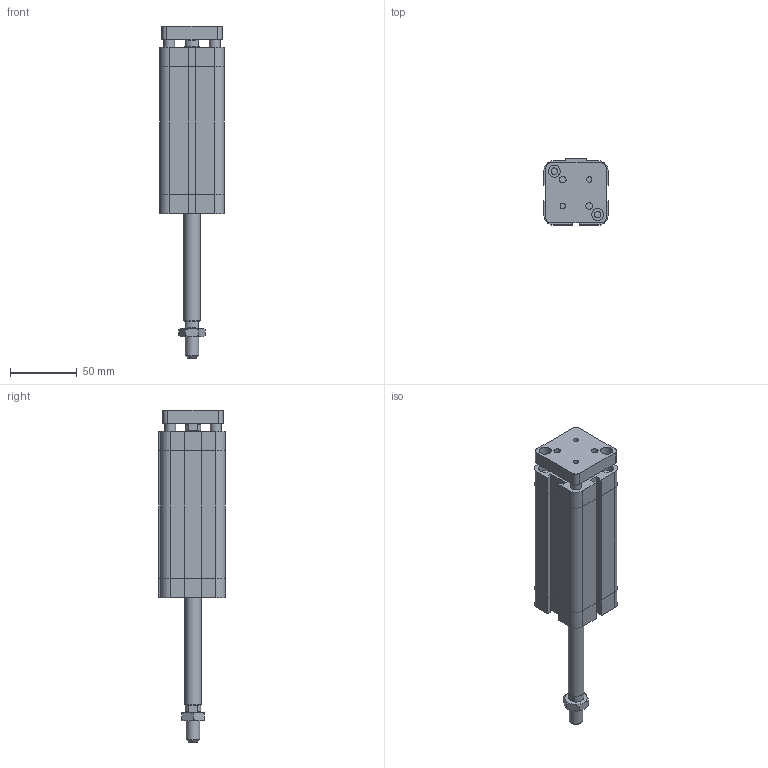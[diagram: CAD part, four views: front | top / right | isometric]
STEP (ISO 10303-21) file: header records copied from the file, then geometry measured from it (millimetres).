
FILE_DESCRIPTION((''),'2;1');
FILE_NAME('I:\Area Tecnica\Disegni\VARIE-3D\Componenti\EUROPE\15##_###_####_09_#\1561_32_0080_09_1.iam.stp','2009-04-20T15:36:29',(''),(''),'Autodesk Inventor 2009','Autodesk Inventor 2009','');
FILE_SCHEMA(('AUTOMOTIVE_DESIGN { 1 0 10303 214 1 1 1 1 }'));
Length unit declared in the file: millimetre
Products named in the file (4): 1561_32_0080_09_1; 1561_32_0080_08_1_C; 1561_32_0080_09_1_SA; DBFM10
Assembly tree (3 placements, depth 2):
  1561_32_0080_09_1
    1561_32_0080_08_1_C
    1561_32_0080_09_1_SA
    DBFM10
Bounding box: 48 x 49.5 x 248.5 mm (x, y, z)
Volume: 295839.8 mm3; surface area: 62626.9 mm2
Topology: 3 solids, 3 shells, 209 faces, 470 edges, 287 vertices
Faces by surface type: plane 120, bspline 45, cylinder 23, cone 21
Full cylindrical faces by diameter (mm): 8 x2, 8.8 x1, 10 x1, 11.7 x2, 12 x1
Entity records: 5963 total; most frequent: CARTESIAN_POINT 1453, DIRECTION 838, ORIENTED_EDGE 834, EDGE_CURVE 417, AXIS2_PLACEMENT_3D 282, EDGE_LOOP 282, VECTOR 274, LINE 274
